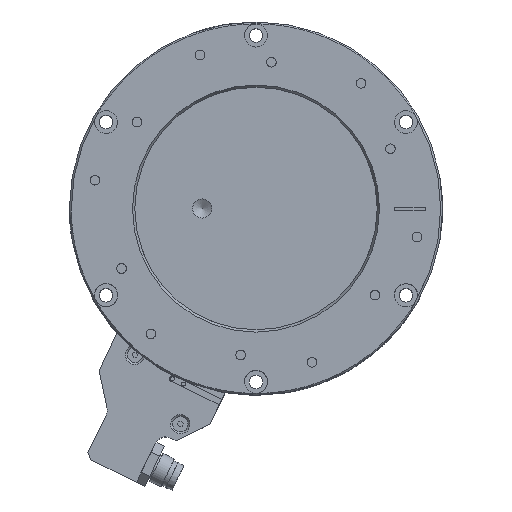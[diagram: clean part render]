
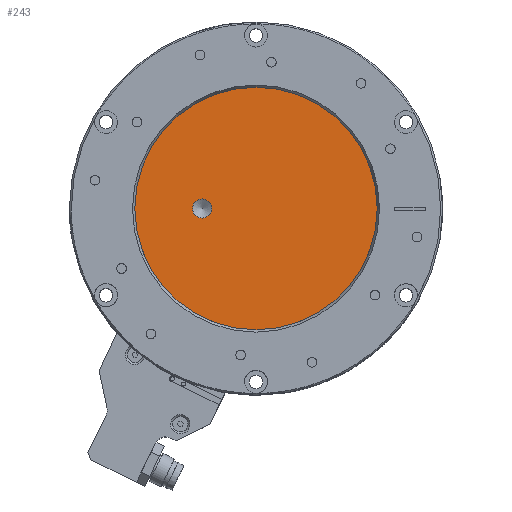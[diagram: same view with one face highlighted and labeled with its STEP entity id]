
A CAD part, top view. The second image highlights one B-rep face of the part: STEP entity #243.
In plain terms, the highlighted planar face has unit normal (0, 0, 1).
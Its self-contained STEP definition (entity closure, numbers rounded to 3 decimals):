
#243 = ADVANCED_FACE( '', ( #716, #717 ), #718, .T. );
#716 = FACE_BOUND( '', #1691, .T. );
#717 = FACE_OUTER_BOUND( '', #1692, .T. );
#718 = PLANE( '', #1693 );
#1691 = EDGE_LOOP( '', ( #2874 ) );
#1692 = EDGE_LOOP( '', ( #2875 ) );
#1693 = AXIS2_PLACEMENT_3D( '', #2876, #2877, #2878 );
#2874 = ORIENTED_EDGE( '', *, *, #4587, .F. );
#2875 = ORIENTED_EDGE( '', *, *, #4633, .F. );
#2876 = CARTESIAN_POINT( '', ( -31.5, 0., 36.5 ) );
#2877 = DIRECTION( '', ( 0., 0., 1. ) );
#2878 = DIRECTION( '', ( 1., 0., 0. ) );
#4587 = EDGE_CURVE( '', #5197, #5197, #5198, .T. );
#4633 = EDGE_CURVE( '', #5267, #5267, #5268, .T. );
#5197 = VERTEX_POINT( '', #6299 );
#5198 = CIRCLE( '', #6300, 2.497 );
#5267 = VERTEX_POINT( '', #6371 );
#5268 = CIRCLE( '', #6372, 31.5 );
#6299 = CARTESIAN_POINT( '', ( -11.503, 0., 36.5 ) );
#6300 = AXIS2_PLACEMENT_3D( '', #8164, #8165, #8166 );
#6371 = CARTESIAN_POINT( '', ( -31.5, 0., 36.5 ) );
#6372 = AXIS2_PLACEMENT_3D( '', #8271, #8272, #8273 );
#8164 = CARTESIAN_POINT( '', ( -14., 0., 36.5 ) );
#8165 = DIRECTION( '', ( 0., 0., 1. ) );
#8166 = DIRECTION( '', ( 1., 0., 0. ) );
#8271 = CARTESIAN_POINT( '', ( 0., 0., 36.5 ) );
#8272 = DIRECTION( '', ( 0., 0., -1. ) );
#8273 = DIRECTION( '', ( -1., 0., 0. ) );
